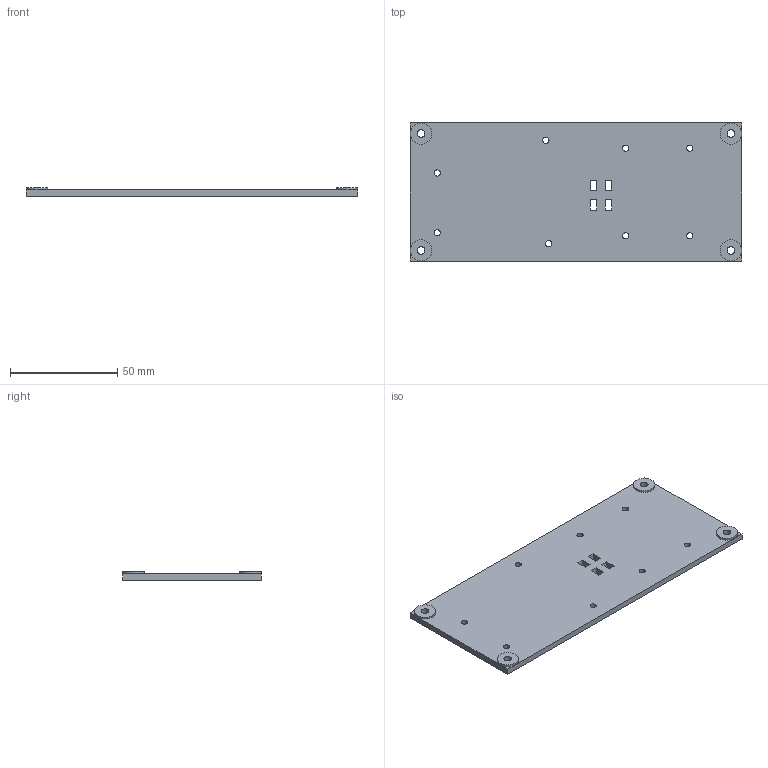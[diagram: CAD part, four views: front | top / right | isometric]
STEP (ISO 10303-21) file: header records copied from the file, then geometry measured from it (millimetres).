
FILE_DESCRIPTION(('FreeCAD Model'),'2;1');
FILE_NAME('Open CASCADE Shape Model','2026-09-11T23:31:23',('FreeCAD'),( 'FreeCAD'),'Open CASCADE STEP processor 7.8','FreeCAD','Unknown');
FILE_SCHEMA(('AUTOMOTIVE_DESIGN { 1 0 10303 214 1 1 1 1 }'));
Products named in the file (1): Open CASCADE STEP translator 7.8 6
Bounding box: 154.8 x 64.6 x 4 mm (x, y, z)
Volume: 29612.9 mm3; surface area: 22473.4 mm2
Topology: 1 solids, 1 shells, 2441 faces, 5870 edges, 3910 vertices
Faces by surface type: plane 2425, cylinder 16
Full cylindrical faces by diameter (mm): 2.9 x8, 3.6 x4, 10 x4
Entity records: 69516 total; most frequent: CARTESIAN_POINT 12222, ORIENTED_EDGE 11740, DIRECTION 10792, EDGE_CURVE 5870, LINE 5832, VECTOR 5832, VERTEX_POINT 3910, FACE_BOUND 2952
